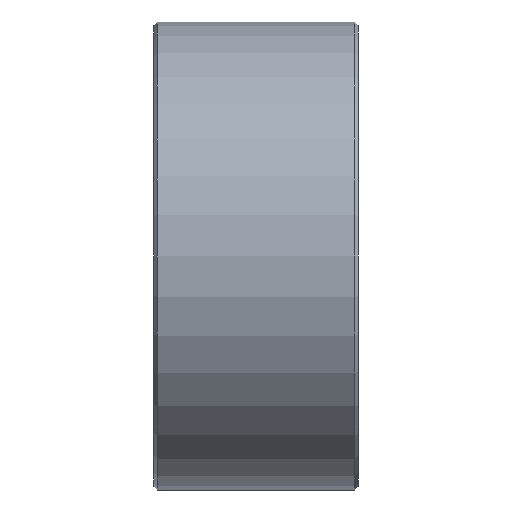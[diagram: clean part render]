
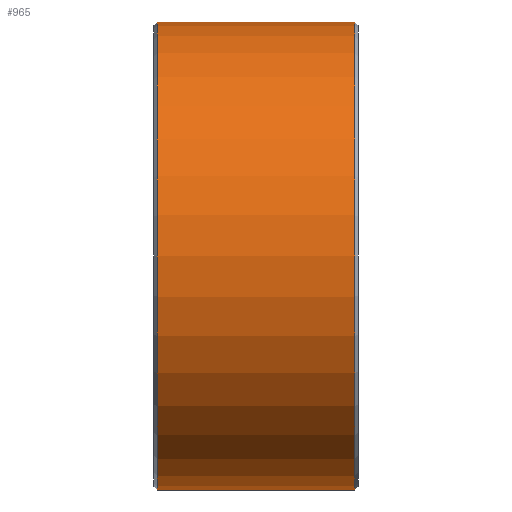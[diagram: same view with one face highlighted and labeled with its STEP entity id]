
A CAD part, left-side view. The second image highlights one B-rep face of the part: STEP entity #965.
In plain terms, the highlighted cylindrical face has radius 3.175 mm (diameter 6.35 mm), a partial arc.
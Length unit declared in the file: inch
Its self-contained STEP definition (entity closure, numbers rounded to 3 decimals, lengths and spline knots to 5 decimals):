
#12 = CIRCLE ( 'NONE', #1529, 0.125 ) ;
#17 = CARTESIAN_POINT ( 'NONE',  ( 0., 0.0545, -0.125 ) ) ;
#39 = DIRECTION ( 'NONE',  ( 0., -1., 0. ) ) ;
#79 = CARTESIAN_POINT ( 'NONE',  ( 0., 0.0527, 0. ) ) ;
#115 = EDGE_CURVE ( 'NONE', #938, #941, #924, .T. ) ;
#148 = CARTESIAN_POINT ( 'NONE',  ( 0., -0.0527, 0.125 ) ) ;
#158 = AXIS2_PLACEMENT_3D ( 'NONE', #307, #39, #1305 ) ;
#242 = ORIENTED_EDGE ( 'NONE', *, *, #1083, .F. ) ;
#243 = CARTESIAN_POINT ( 'NONE',  ( 0., 0.0545, 0.125 ) ) ;
#254 = VECTOR ( 'NONE', #1019, 39.37008 ) ;
#278 = FACE_OUTER_BOUND ( 'NONE', #1105, .T. ) ;
#307 = CARTESIAN_POINT ( 'NONE',  ( 0., 0.0545, 0. ) ) ;
#394 = LINE ( 'NONE', #17, #2015 ) ;
#497 = CARTESIAN_POINT ( 'NONE',  ( 0., 0.0527, 0.125 ) ) ;
#636 = DIRECTION ( 'NONE',  ( 0., -1., 0. ) ) ;
#676 = VERTEX_POINT ( 'NONE', #497 ) ;
#687 = CARTESIAN_POINT ( 'NONE',  ( 0., 0.0527, -0.125 ) ) ;
#723 = DIRECTION ( 'NONE',  ( 0., -1., 0. ) ) ;
#924 = CIRCLE ( 'NONE', #1508, 0.125 ) ;
#938 = VERTEX_POINT ( 'NONE', #1084 ) ;
#941 = VERTEX_POINT ( 'NONE', #148 ) ;
#965 = ADVANCED_FACE ( 'NONE', ( #278 ), #1859, .T. ) ;
#1004 = LINE ( 'NONE', #243, #254 ) ;
#1019 = DIRECTION ( 'NONE',  ( 0., -1., 0. ) ) ;
#1047 = DIRECTION ( 'NONE',  ( 0., 0., 1. ) ) ;
#1083 = EDGE_CURVE ( 'NONE', #676, #941, #1004, .T. ) ;
#1084 = CARTESIAN_POINT ( 'NONE',  ( 0., -0.0527, -0.125 ) ) ;
#1105 = EDGE_LOOP ( 'NONE', ( #242, #1733, #2022, #1241 ) ) ;
#1126 = VERTEX_POINT ( 'NONE', #687 ) ;
#1241 = ORIENTED_EDGE ( 'NONE', *, *, #115, .T. ) ;
#1305 = DIRECTION ( 'NONE',  ( 0., 0., -1. ) ) ;
#1345 = EDGE_CURVE ( 'NONE', #1126, #938, #394, .T. ) ;
#1508 = AXIS2_PLACEMENT_3D ( 'NONE', #1530, #1688, #1047 ) ;
#1529 = AXIS2_PLACEMENT_3D ( 'NONE', #79, #723, #1834 ) ;
#1530 = CARTESIAN_POINT ( 'NONE',  ( 0., -0.0527, 0. ) ) ;
#1688 = DIRECTION ( 'NONE',  ( 0., 1., 0. ) ) ;
#1733 = ORIENTED_EDGE ( 'NONE', *, *, #1918, .T. ) ;
#1834 = DIRECTION ( 'NONE',  ( 0., 0., 1. ) ) ;
#1859 = CYLINDRICAL_SURFACE ( 'NONE', #158, 0.125 ) ;
#1918 = EDGE_CURVE ( 'NONE', #676, #1126, #12, .T. ) ;
#2015 = VECTOR ( 'NONE', #636, 39.37008 ) ;
#2022 = ORIENTED_EDGE ( 'NONE', *, *, #1345, .T. ) ;
